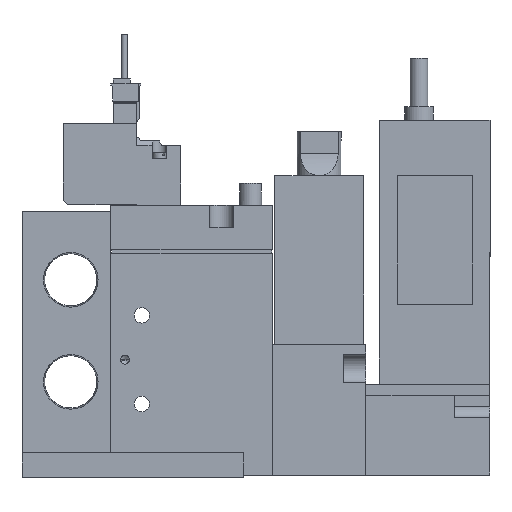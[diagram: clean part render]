
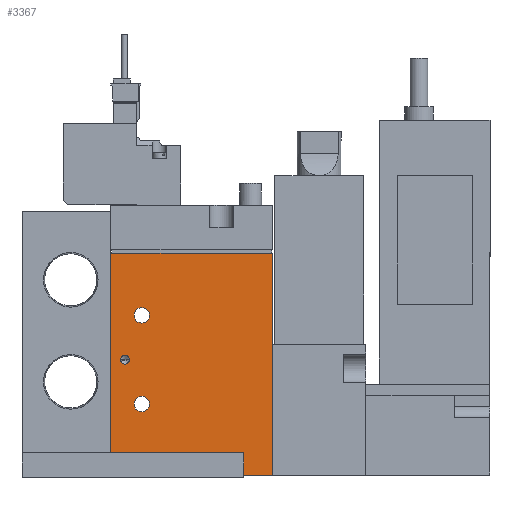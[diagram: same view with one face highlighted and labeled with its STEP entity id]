
A CAD part, left-side view. The second image highlights one B-rep face of the part: STEP entity #3367.
In plain terms, the highlighted planar face has unit normal (-1, 0, 0) as drawn and (1, 0, 0) by its records, which use the part's own axes.
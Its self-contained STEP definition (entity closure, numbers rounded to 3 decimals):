
#3367=ADVANCED_FACE('',(#5372,#5373,#5374,#5375),#5376,.F.);
#5372=FACE_BOUND('',#8944,.T.);
#5373=FACE_BOUND('',#8945,.T.);
#5374=FACE_BOUND('',#8946,.T.);
#5375=FACE_OUTER_BOUND('',#8947,.T.);
#5376=PLANE('',#8948);
#8944=EDGE_LOOP('',(#13992));
#8945=EDGE_LOOP('',(#13993));
#8946=EDGE_LOOP('',(#13994));
#8947=EDGE_LOOP('',(#13995,#13996,#13997,#13998));
#8948=AXIS2_PLACEMENT_3D('',#13999,#14000,#14001);
#13992=ORIENTED_EDGE('',*,*,#24403,.F.);
#13993=ORIENTED_EDGE('',*,*,#24404,.T.);
#13994=ORIENTED_EDGE('',*,*,#24405,.T.);
#13995=ORIENTED_EDGE('',*,*,#24406,.T.);
#13996=ORIENTED_EDGE('',*,*,#24407,.F.);
#13997=ORIENTED_EDGE('',*,*,#24408,.F.);
#13998=ORIENTED_EDGE('',*,*,#24409,.T.);
#13999=CARTESIAN_POINT('',(8.5,-19.444,50.0));
#14000=DIRECTION('',(-1.0,0.0,0.0));
#14001=DIRECTION('',(0.0,0.0,1.0));
#24403=EDGE_CURVE('',#28560,#28560,#28561,.T.);
#24404=EDGE_CURVE('',#28562,#28562,#28563,.T.);
#24405=EDGE_CURVE('',#28564,#28564,#28565,.T.);
#24406=EDGE_CURVE('',#28566,#28567,#28568,.T.);
#24407=EDGE_CURVE('',#28569,#28567,#28570,.T.);
#24408=EDGE_CURVE('',#28571,#28569,#28572,.T.);
#24409=EDGE_CURVE('',#28571,#28566,#28573,.T.);
#28560=VERTEX_POINT('',#35482);
#28561=CIRCLE('',#35483,1.0);
#28562=VERTEX_POINT('',#35484);
#28563=CIRCLE('',#35485,1.75);
#28564=VERTEX_POINT('',#35486);
#28565=CIRCLE('',#35487,1.75);
#28566=VERTEX_POINT('',#35488);
#28567=VERTEX_POINT('',#35489);
#28568=LINE('',#35490,#35491);
#28569=VERTEX_POINT('',#35492);
#28570=LINE('',#35493,#35494);
#28571=VERTEX_POINT('',#35495);
#28572=LINE('',#35496,#35497);
#28573=LINE('',#35498,#35499);
#35482=CARTESIAN_POINT('',(8.5,-17.244,26.0));
#35483=AXIS2_PLACEMENT_3D('',#44140,#44141,#44142);
#35484=CARTESIAN_POINT('',(8.5,-10.694,36.0));
#35485=AXIS2_PLACEMENT_3D('',#44143,#44144,#44145);
#35486=CARTESIAN_POINT('',(8.5,-10.694,16.0));
#35487=AXIS2_PLACEMENT_3D('',#44146,#44147,#44148);
#35488=CARTESIAN_POINT('',(8.5,-19.444,0.0));
#35489=CARTESIAN_POINT('',(8.5,17.056,0.0));
#35490=CARTESIAN_POINT('',(8.5,-19.444,0.0));
#35491=VECTOR('',#44149,1.0);
#35492=CARTESIAN_POINT('',(8.5,17.056,50.0));
#35493=CARTESIAN_POINT('',(8.5,17.056,50.0));
#35494=VECTOR('',#44150,1.0);
#35495=CARTESIAN_POINT('',(8.5,-19.444,50.0));
#35496=CARTESIAN_POINT('',(8.5,-19.444,50.0));
#35497=VECTOR('',#44151,1.0);
#35498=CARTESIAN_POINT('',(8.5,-19.444,50.0));
#35499=VECTOR('',#44152,1.0);
#44140=CARTESIAN_POINT('',(8.5,-16.244,26.0));
#44141=DIRECTION('',(1.0,0.,0.0));
#44142=DIRECTION('',(0.,-1.0,0.0));
#44143=CARTESIAN_POINT('',(8.5,-12.444,36.0));
#44144=DIRECTION('',(-1.0,0.0,0.0));
#44145=DIRECTION('',(0.0,1.0,0.0));
#44146=CARTESIAN_POINT('',(8.5,-12.444,16.0));
#44147=DIRECTION('',(-1.0,0.0,0.0));
#44148=DIRECTION('',(0.0,1.0,0.0));
#44149=DIRECTION('',(0.0,1.0,0.0));
#44150=DIRECTION('',(0.0,0.0,-1.0));
#44151=DIRECTION('',(0.0,1.0,0.0));
#44152=DIRECTION('',(0.0,0.0,-1.0));
